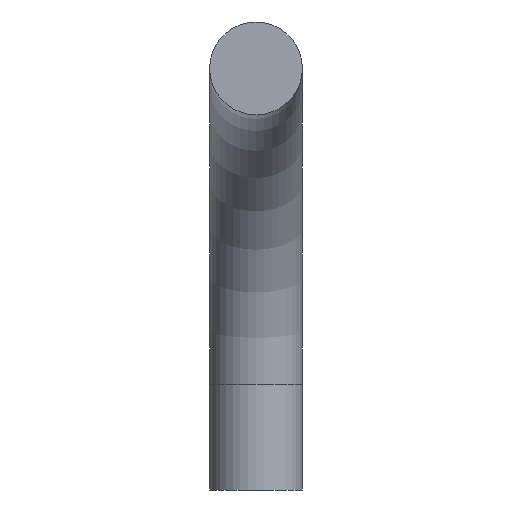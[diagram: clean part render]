
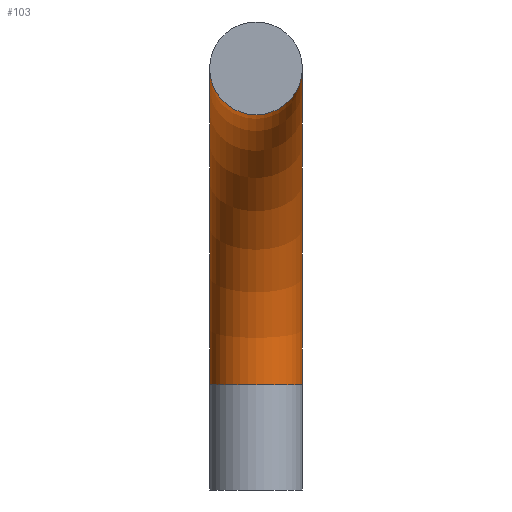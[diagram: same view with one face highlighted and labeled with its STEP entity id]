
A CAD part, front view. The second image highlights one B-rep face of the part: STEP entity #103.
In plain terms, the highlighted toroidal (fillet/blend) face has major radius 15 mm and minor radius 2.2 mm.
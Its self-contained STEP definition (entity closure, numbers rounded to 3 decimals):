
#24 = VERTEX_POINT('',#25);
#25 = CARTESIAN_POINT('',(-14.8,-5.,100.63));
#32 = CYLINDRICAL_SURFACE('',#33,2.2);
#33 = AXIS2_PLACEMENT_3D('',#34,#35,#36);
#34 = CARTESIAN_POINT('',(-17.,-5.,95.63));
#35 = DIRECTION('',(0.,0.,1.));
#36 = DIRECTION('',(1.,0.,-0.));
#50 = EDGE_CURVE('',#24,#24,#51,.T.);
#51 = SURFACE_CURVE('',#52,(#57,#64),.PCURVE_S1.);
#52 = CIRCLE('',#53,2.2);
#53 = AXIS2_PLACEMENT_3D('',#54,#55,#56);
#54 = CARTESIAN_POINT('',(-17.,-5.,100.63));
#55 = DIRECTION('',(0.,0.,1.));
#56 = DIRECTION('',(1.,0.,-0.));
#57 = PCURVE('',#32,#58);
#58 = DEFINITIONAL_REPRESENTATION('',(#59),#63);
#59 = LINE('',#60,#61);
#60 = CARTESIAN_POINT('',(0.,5.));
#61 = VECTOR('',#62,1.);
#62 = DIRECTION('',(1.,0.));
#63 = ( GEOMETRIC_REPRESENTATION_CONTEXT(2) 
PARAMETRIC_REPRESENTATION_CONTEXT() REPRESENTATION_CONTEXT('2D SPACE',''
  ) );
#64 = PCURVE('',#65,#70);
#65 = TOROIDAL_SURFACE('',#66,15.,2.2);
#66 = AXIS2_PLACEMENT_3D('',#67,#68,#69);
#67 = CARTESIAN_POINT('',(-17.,-20.,100.63));
#68 = DIRECTION('',(1.,0.,-0.));
#69 = DIRECTION('',(0.,1.,0.));
#70 = DEFINITIONAL_REPRESENTATION('',(#71),#74);
#71 = B_SPLINE_CURVE_WITH_KNOTS('',1,(#72,#73),.UNSPECIFIED.,.F.,.F.,(2,
    2),(0.,6.283),.PIECEWISE_BEZIER_KNOTS.);
#72 = CARTESIAN_POINT('',(0.,7.854));
#73 = CARTESIAN_POINT('',(0.,1.571));
#74 = ( GEOMETRIC_REPRESENTATION_CONTEXT(2) 
PARAMETRIC_REPRESENTATION_CONTEXT() REPRESENTATION_CONTEXT('2D SPACE',''
  ) );
#103 = ADVANCED_FACE('',(#104),#65,.T.);
#104 = FACE_BOUND('',#105,.T.);
#105 = EDGE_LOOP('',(#106,#129,#155,#156));
#106 = ORIENTED_EDGE('',*,*,#107,.T.);
#107 = EDGE_CURVE('',#24,#108,#110,.T.);
#108 = VERTEX_POINT('',#109);
#109 = CARTESIAN_POINT('',(-14.8,-20.,115.63));
#110 = SEAM_CURVE('',#111,(#116,#122),.PCURVE_S1.);
#111 = CIRCLE('',#112,15.);
#112 = AXIS2_PLACEMENT_3D('',#113,#114,#115);
#113 = CARTESIAN_POINT('',(-14.8,-20.,100.63));
#114 = DIRECTION('',(1.,0.,-0.));
#115 = DIRECTION('',(0.,1.,0.));
#116 = PCURVE('',#65,#117);
#117 = DEFINITIONAL_REPRESENTATION('',(#118),#121);
#118 = B_SPLINE_CURVE_WITH_KNOTS('',1,(#119,#120),.UNSPECIFIED.,.F.,.F.,
  (2,2),(0.,1.571),.PIECEWISE_BEZIER_KNOTS.);
#119 = CARTESIAN_POINT('',(0.,1.571));
#120 = CARTESIAN_POINT('',(1.571,1.571));
#121 = ( GEOMETRIC_REPRESENTATION_CONTEXT(2) 
PARAMETRIC_REPRESENTATION_CONTEXT() REPRESENTATION_CONTEXT('2D SPACE',''
  ) );
#122 = PCURVE('',#65,#123);
#123 = DEFINITIONAL_REPRESENTATION('',(#124),#128);
#124 = LINE('',#125,#126);
#125 = CARTESIAN_POINT('',(0.,7.854));
#126 = VECTOR('',#127,1.);
#127 = DIRECTION('',(1.,0.));
#128 = ( GEOMETRIC_REPRESENTATION_CONTEXT(2) 
PARAMETRIC_REPRESENTATION_CONTEXT() REPRESENTATION_CONTEXT('2D SPACE',''
  ) );
#129 = ORIENTED_EDGE('',*,*,#130,.T.);
#130 = EDGE_CURVE('',#108,#108,#131,.T.);
#131 = SURFACE_CURVE('',#132,(#137,#144),.PCURVE_S1.);
#132 = CIRCLE('',#133,2.2);
#133 = AXIS2_PLACEMENT_3D('',#134,#135,#136);
#134 = CARTESIAN_POINT('',(-17.,-20.,115.63));
#135 = DIRECTION('',(-0.,1.,0.));
#136 = DIRECTION('',(0.,0.,1.));
#137 = PCURVE('',#65,#138);
#138 = DEFINITIONAL_REPRESENTATION('',(#139),#143);
#139 = LINE('',#140,#141);
#140 = CARTESIAN_POINT('',(1.571,0.));
#141 = VECTOR('',#142,1.);
#142 = DIRECTION('',(0.,1.));
#143 = ( GEOMETRIC_REPRESENTATION_CONTEXT(2) 
PARAMETRIC_REPRESENTATION_CONTEXT() REPRESENTATION_CONTEXT('2D SPACE',''
  ) );
#144 = PCURVE('',#145,#150);
#145 = CYLINDRICAL_SURFACE('',#146,2.2);
#146 = AXIS2_PLACEMENT_3D('',#147,#148,#149);
#147 = CARTESIAN_POINT('',(-17.,-20.,115.63));
#148 = DIRECTION('',(0.,-1.,0.));
#149 = DIRECTION('',(1.,0.,0.));
#150 = DEFINITIONAL_REPRESENTATION('',(#151),#154);
#151 = B_SPLINE_CURVE_WITH_KNOTS('',1,(#152,#153),.UNSPECIFIED.,.F.,.F.,
  (2,2),(1.571,7.854),.PIECEWISE_BEZIER_KNOTS.);
#152 = CARTESIAN_POINT('',(6.283,0.));
#153 = CARTESIAN_POINT('',(0.,0.));
#154 = ( GEOMETRIC_REPRESENTATION_CONTEXT(2) 
PARAMETRIC_REPRESENTATION_CONTEXT() REPRESENTATION_CONTEXT('2D SPACE',''
  ) );
#155 = ORIENTED_EDGE('',*,*,#107,.F.);
#156 = ORIENTED_EDGE('',*,*,#50,.T.);
